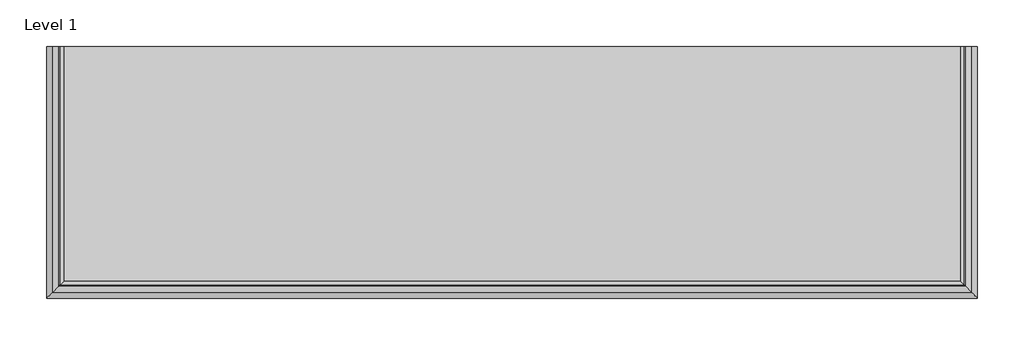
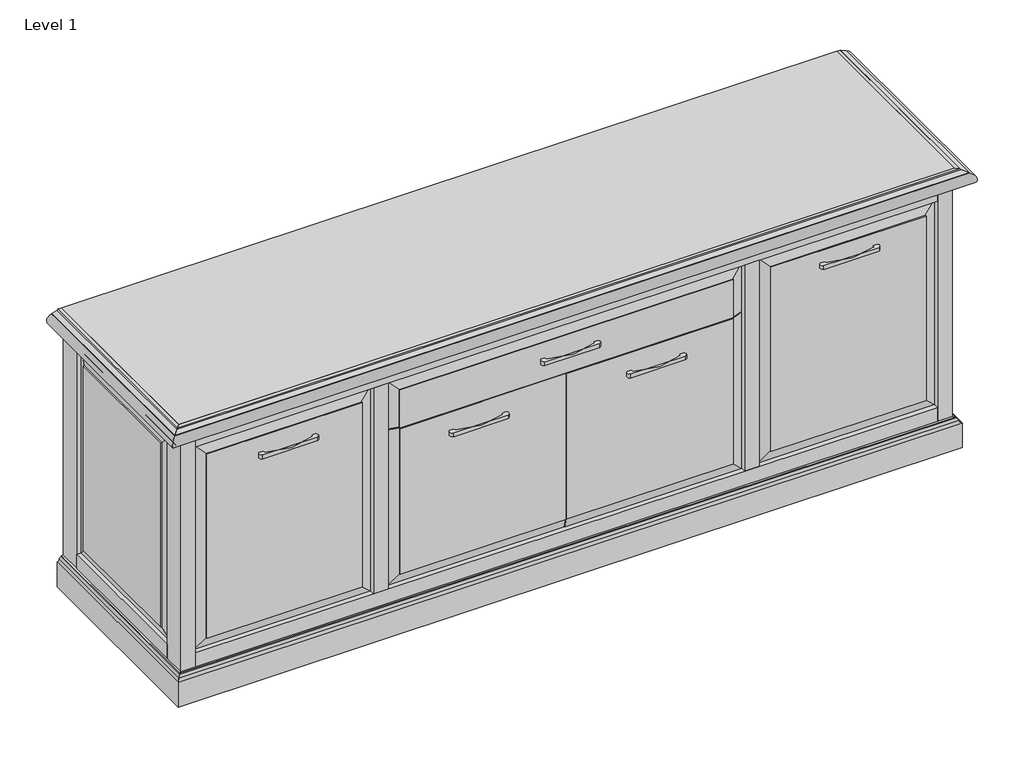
# One storey: 6 proxies.
"""IFC4 building model written with IfcOpenShell, lengths in millimetres."""

from ifc_helpers import new_model, si_unit, origin, place, context, project, spatial, transform, mapped, element, save
from components import generic_models_5fe2147b, generic_models_ff0544f8

model = new_model("IFC4")

# Units and contexts
model_context = context("Model", 3, world=origin())
ifc_project = project(units=[si_unit("LENGTHUNIT", "METRE", prefix="MILLI")], contexts=[model_context])

# Site, building, storey
site = spatial("IfcSite", under=ifc_project)
building = spatial("IfcBuilding", under=site)
storey = spatial("IfcBuildingStorey", under=building, Name="Level 1", Elevation=0.0)

# Proxies
placement = place(None, origin())
generic_models_shape = generic_models_5fe2147b(model_context)
element("IfcBuildingElementProxy", 1, Name="ART DECCO^GLAM-HAFELE 110_34_286", ObjectType="ART DECCO^GLAM-HAFELE 110_34_286", at=placement, inside=storey, context=model_context, shape_type="MappedRepresentation", body=[
    mapped(generic_models_shape, transform((1347.48125, -615.95, 583.85), x_axis=(1.0, 0.0, 0.0), y_axis=(0.0, 0.0, -1.0), z_axis=(0.0, 1.0, 0.0))),
])
element("IfcBuildingElementProxy", 2, Name="ART DECCO^GLAM-HAFELE 110_34_286", ObjectType="ART DECCO^GLAM-HAFELE 110_34_286", at=placement, inside=storey, context=model_context, shape_type="MappedRepresentation", body=[
    mapped(generic_models_shape, transform((1078.4, -631.105361, 726.725), x_axis=(1.0, 0.0, 0.0), y_axis=(0.0, 0.0, -1.0), z_axis=(0.0, 1.0, 0.0))),
])
element("IfcBuildingElementProxy", 3, Name="ART DECCO^GLAM-HAFELE 110_34_286", ObjectType="ART DECCO^GLAM-HAFELE 110_34_286", at=placement, inside=storey, context=model_context, shape_type="MappedRepresentation", body=[
    mapped(generic_models_shape, transform((224.325, -631.105361, 726.725), x_axis=(1.0, 0.0, 0.0), y_axis=(0.0, 0.0, -1.0), z_axis=(0.0, 1.0, 0.0))),
])
element("IfcBuildingElementProxy", 4, Name="ART DECCO^GLAM-HAFELE 110_34_286", ObjectType="ART DECCO^GLAM-HAFELE 110_34_286", at=placement, inside=storey, context=model_context, shape_type="MappedRepresentation", body=[
    mapped(generic_models_shape, transform((809.31875, -615.95, 583.85), x_axis=(1.0, 0.0, 0.0), y_axis=(0.0, 0.0, -1.0), z_axis=(0.0, 1.0, 0.0))),
])
element("IfcBuildingElementProxy", 5, Name="ART DECCO^GLAM-HAFELE 110_34_286", ObjectType="ART DECCO^GLAM-HAFELE 110_34_286", at=placement, inside=storey, context=model_context, shape_type="MappedRepresentation", body=[
    mapped(generic_models_shape, transform((1932.475, -615.95, 726.725), x_axis=(1.0, 0.0, 0.0), y_axis=(0.0, 0.0, -1.0), z_axis=(0.0, 1.0, 0.0))),
])
generic_models_2_shape = generic_models_ff0544f8(model_context)
element("IfcBuildingElementProxy", 6, Name="CAMBRIDGE^CREDENZA 2_26x96 4 DOOR 1 DRAWER-PARTS SOLID", ObjectType="CAMBRIDGE^CREDENZA 2_26x96 4 DOOR 1 DRAWER-PARTS SOLID", at=placement, inside=storey, context=model_context, shape_type="MappedRepresentation", body=[
    mapped(generic_models_2_shape, transform((-6.35, -615.95, 857.25), x_axis=(1.0, 0.0, 0.0), y_axis=(0.0, 0.0, 1.0), z_axis=(0.0, -1.0, 0.0))),
])

save(model, "model.ifc")
